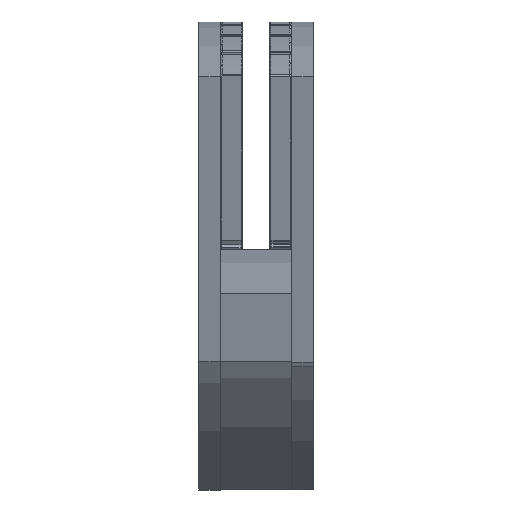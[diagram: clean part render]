
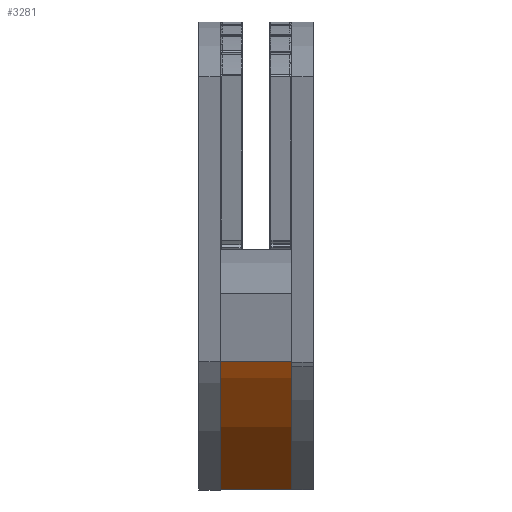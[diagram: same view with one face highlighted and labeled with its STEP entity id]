
A CAD part, left-side view. The second image highlights one B-rep face of the part: STEP entity #3281.
In plain terms, the highlighted cylindrical face has radius 160 mm (diameter 320 mm), a partial arc.
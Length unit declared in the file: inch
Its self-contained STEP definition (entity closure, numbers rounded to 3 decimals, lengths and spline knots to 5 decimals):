
#17 = DIRECTION ( 'NONE',  ( 0., 1., 0. ) ) ;
#32 = VERTEX_POINT ( 'NONE', #493 ) ;
#156 = ORIENTED_EDGE ( 'NONE', *, *, #1516, .F. ) ;
#471 = VERTEX_POINT ( 'NONE', #5305 ) ;
#485 = EDGE_CURVE ( 'NONE', #471, #3755, #4130, .T. ) ;
#493 = CARTESIAN_POINT ( 'NONE',  ( 2.1982, 7.2866, 16.158 ) ) ;
#627 = DIRECTION ( 'NONE',  ( 0., 0., 1. ) ) ;
#864 = VECTOR ( 'NONE', #17, 39.37008 ) ;
#1017 = ORIENTED_EDGE ( 'NONE', *, *, #485, .T. ) ;
#1205 = CARTESIAN_POINT ( 'NONE',  ( 7.87195, 7.80235, 15.6461 ) ) ;
#1516 = EDGE_CURVE ( 'NONE', #32, #1736, #5084, .T. ) ;
#1736 = VERTEX_POINT ( 'NONE', #2938 ) ;
#1873 = CARTESIAN_POINT ( 'NONE',  ( 4.53022, 7.80235, 10.30636 ) ) ;
#2053 = DIRECTION ( 'NONE',  ( 0., 0., -1. ) ) ;
#2178 = EDGE_CURVE ( 'NONE', #32, #471, #3807, .T. ) ;
#2514 = CARTESIAN_POINT ( 'NONE',  ( 4.53022, 7.80235, 10.30636 ) ) ;
#2637 = AXIS2_PLACEMENT_3D ( 'NONE', #1873, #5227, #627 ) ;
#2855 = DIRECTION ( 'NONE',  ( 0., 1., 0. ) ) ;
#2869 = CARTESIAN_POINT ( 'NONE',  ( 2.1982, 7.2866, 16.158 ) ) ;
#2938 = CARTESIAN_POINT ( 'NONE',  ( 7.87195, 7.2866, 15.6461 ) ) ;
#3215 = ORIENTED_EDGE ( 'NONE', *, *, #2178, .T. ) ;
#3261 = LINE ( 'NONE', #4961, #864 ) ;
#3281 = ADVANCED_FACE ( 'NONE', ( #3704 ), #5384, .F. ) ;
#3704 = FACE_OUTER_BOUND ( 'NONE', #5244, .T. ) ;
#3755 = VERTEX_POINT ( 'NONE', #1205 ) ;
#3760 = AXIS2_PLACEMENT_3D ( 'NONE', #2514, #4967, #2053 ) ;
#3807 = LINE ( 'NONE', #2869, #4470 ) ;
#4130 = CIRCLE ( 'NONE', #2637, 6.29921 ) ;
#4146 = CARTESIAN_POINT ( 'NONE',  ( 4.53022, 7.2866, 10.30636 ) ) ;
#4450 = EDGE_CURVE ( 'NONE', #1736, #3755, #3261, .T. ) ;
#4470 = VECTOR ( 'NONE', #4544, 39.37008 ) ;
#4500 = DIRECTION ( 'NONE',  ( 0., 0., 1. ) ) ;
#4544 = DIRECTION ( 'NONE',  ( 0., 1., 0. ) ) ;
#4674 = ORIENTED_EDGE ( 'NONE', *, *, #4450, .F. ) ;
#4961 = CARTESIAN_POINT ( 'NONE',  ( 7.87195, 7.80235, 15.6461 ) ) ;
#4967 = DIRECTION ( 'NONE',  ( 0., -1., 0. ) ) ;
#4990 = AXIS2_PLACEMENT_3D ( 'NONE', #4146, #2855, #4500 ) ;
#5084 = CIRCLE ( 'NONE', #4990, 6.29921 ) ;
#5227 = DIRECTION ( 'NONE',  ( 0., 1., 0. ) ) ;
#5244 = EDGE_LOOP ( 'NONE', ( #156, #3215, #1017, #4674 ) ) ;
#5305 = CARTESIAN_POINT ( 'NONE',  ( 2.1982, 7.80235, 16.158 ) ) ;
#5384 = CYLINDRICAL_SURFACE ( 'NONE', #3760, 6.29921 ) ;
